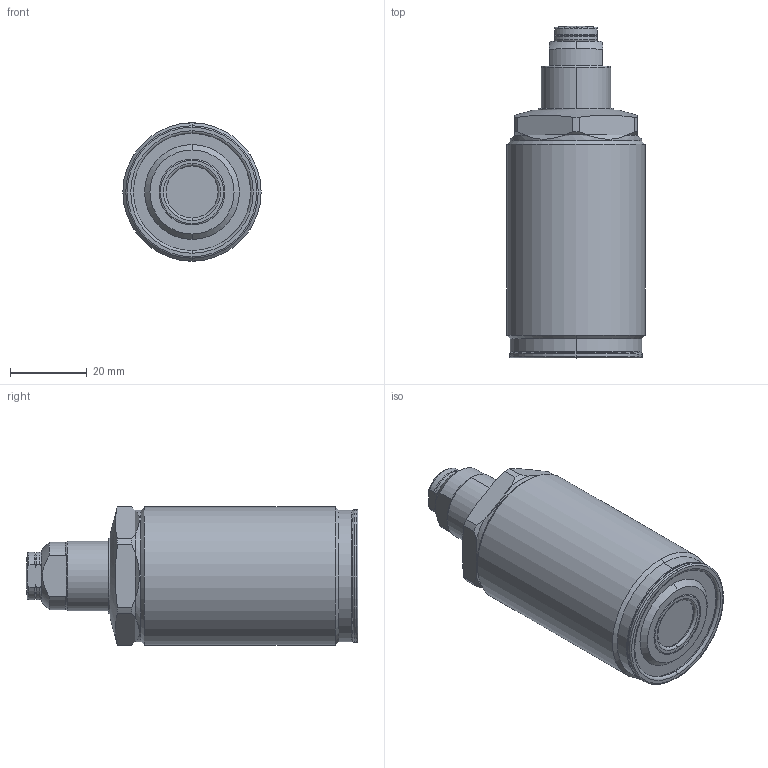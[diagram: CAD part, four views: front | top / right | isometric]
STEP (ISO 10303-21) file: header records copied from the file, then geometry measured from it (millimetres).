
FILE_DESCRIPTION(/* description */ (''),/* implementation_level */ '2;1');
FILE_NAME(/* name */ 'GSS04.stp',/* time_stamp */ '2025-01-10T09:21:49+08:00',/* author */ (''),/* organization */ (''),/* preprocessor_version */ 'ST-DEVELOPER v16.7',/* originating_system */ 'SIEMENS PLM Software NX 12.0',/* authorisation */ '');
FILE_SCHEMA (('AUTOMOTIVE_DESIGN { 1 0 10303 214 3 1 1 1 }'));
Length unit declared in the file: millimetre
Products named in the file (7): AS0104795; TNC0403_ContactBolt_M103057; GSS04-002; GSS04-04; GSS04-03; GSS04-01; GSS04_stp
Assembly tree (6 placements, depth 3):
  GSS04_stp
    GSS04-01
      TNC0403_ContactBolt_M103057
      AS0104795
    GSS04-03
    GSS04-04
    GSS04-002
Bounding box: 36 x 86.4 x 36 mm (x, y, z)
Volume: 67100.2 mm3; surface area: 12317.9 mm2
Topology: 5 solids, 5 shells, 141 faces, 312 edges, 188 vertices
Faces by surface type: cylinder 43, torus 34, plane 34, cone 28, sphere 2
Full cylindrical faces by diameter (mm): 34.2 x1, 36 x1
Entity records: 4229 total; most frequent: CARTESIAN_POINT 884, DIRECTION 751, ORIENTED_EDGE 616, AXIS2_PLACEMENT_3D 335, EDGE_CURVE 308, VERTEX_POINT 188, CIRCLE 181, EDGE_LOOP 158
